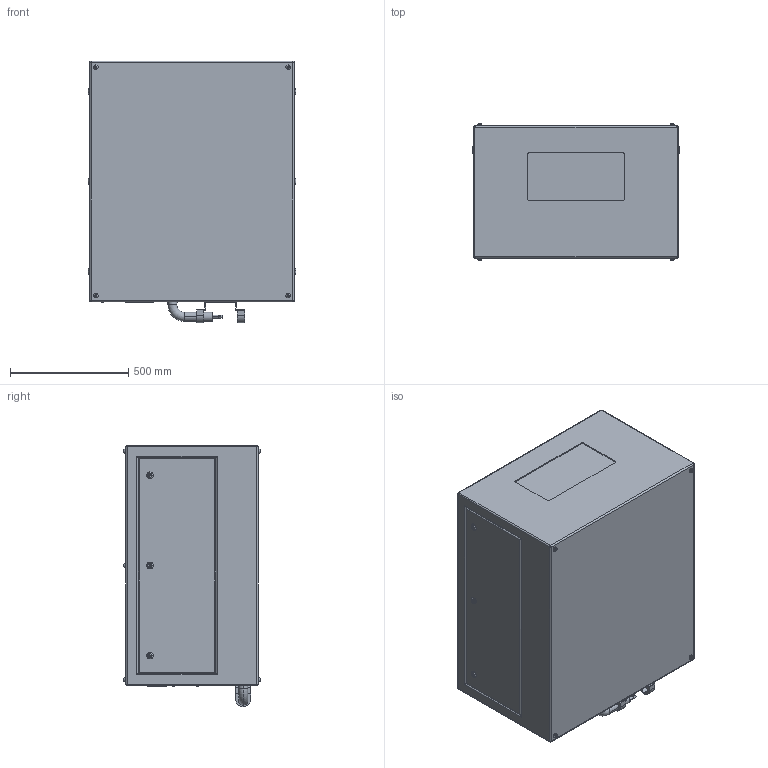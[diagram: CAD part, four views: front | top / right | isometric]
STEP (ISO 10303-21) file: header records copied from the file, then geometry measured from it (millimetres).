
FILE_DESCRIPTION (( 'STEP AP214' ), '1' );
FILE_NAME ('Oasis 59.200.L R02.STEP', '2022-08-27T16:02:03', ( '' ), ( '' ), 'SwSTEP 2.0', 'SolidWorks 2020', '' );
FILE_SCHEMA (( 'AUTOMOTIVE_DESIGN' ));
Length unit declared in the file: inch
Products named in the file (1): Oasis 59.200.L R02
Bounding box: 876.3 x 576.07 x 1104.9 mm (x, y, z)
Volume: 489775822.4 mm3; surface area: 4192265.3 mm2
Topology: 2 solids, 8 shells, 495 faces, 1131 edges, 716 vertices
Faces by surface type: plane 271, cylinder 170, torus 46, bspline 8
Entity records: 18948 total; most frequent: CARTESIAN_POINT 2855, DIRECTION 2463, ORIENTED_EDGE 2246, EDGE_CURVE 1123, AXIS2_PLACEMENT_3D 884, VERTEX_POINT 716, VECTOR 695, LINE 695
